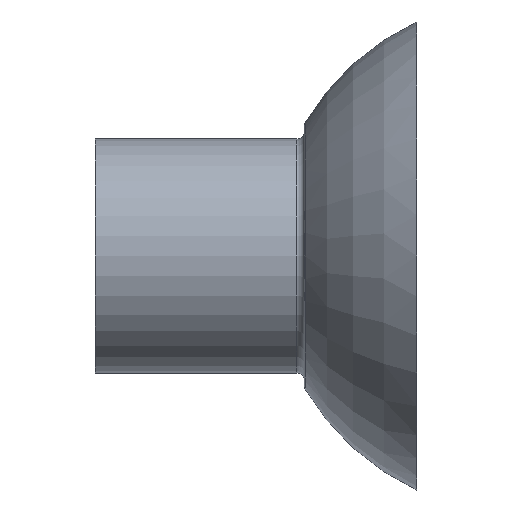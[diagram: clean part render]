
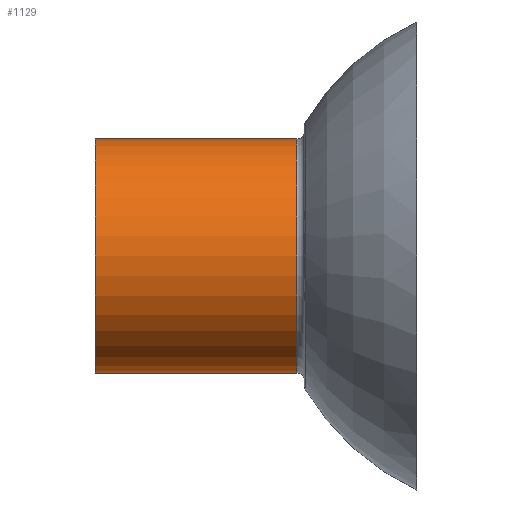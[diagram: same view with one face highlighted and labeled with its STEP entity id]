
A CAD part, left-side view. The second image highlights one B-rep face of the part: STEP entity #1129.
In plain terms, the highlighted cylindrical face has radius 8 mm (diameter 16 mm), a partial arc.
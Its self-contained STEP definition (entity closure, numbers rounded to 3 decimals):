
#170 = EDGE_CURVE ( 'NONE', #2993, #4271, #2170, .T. ) ;
#179 = CARTESIAN_POINT ( 'NONE',  ( 0., 53.08, -8. ) ) ;
#279 = CARTESIAN_POINT ( 'NONE',  ( 0., -13.8, 8. ) ) ;
#334 = CARTESIAN_POINT ( 'NONE',  ( 0., 0., 0. ) ) ;
#380 = CARTESIAN_POINT ( 'NONE',  ( 0., 0., -8. ) ) ;
#391 = EDGE_CURVE ( 'NONE', #799, #2993, #1828, .T. ) ;
#479 = CIRCLE ( 'NONE', #1535, 8. ) ;
#542 = DIRECTION ( 'NONE',  ( 0., 1., 0. ) ) ;
#555 = DIRECTION ( 'NONE',  ( 0., 1., 0. ) ) ;
#781 = CARTESIAN_POINT ( 'NONE',  ( 0., -13.8, 0. ) ) ;
#799 = VERTEX_POINT ( 'NONE', #2531 ) ;
#915 = ORIENTED_EDGE ( 'NONE', *, *, #2499, .F. ) ;
#1129 = ADVANCED_FACE ( 'NONE', ( #4142 ), #3163, .T. ) ;
#1356 = VERTEX_POINT ( 'NONE', #380 ) ;
#1522 = VECTOR ( 'NONE', #542, 1000. ) ;
#1535 = AXIS2_PLACEMENT_3D ( 'NONE', #334, #2141, #2126 ) ;
#1665 = VECTOR ( 'NONE', #555, 1000. ) ;
#1689 = CARTESIAN_POINT ( 'NONE',  ( 0., 53.08, 0. ) ) ;
#1828 = CIRCLE ( 'NONE', #3455, 8. ) ;
#2126 = DIRECTION ( 'NONE',  ( 0., 0., 1. ) ) ;
#2141 = DIRECTION ( 'NONE',  ( 0., 1., 0. ) ) ;
#2170 = LINE ( 'NONE', #3527, #1522 ) ;
#2499 = EDGE_CURVE ( 'NONE', #799, #1356, #3775, .T. ) ;
#2527 = AXIS2_PLACEMENT_3D ( 'NONE', #1689, #3554, #4652 ) ;
#2531 = CARTESIAN_POINT ( 'NONE',  ( 0., -13.8, -8. ) ) ;
#2671 = ORIENTED_EDGE ( 'NONE', *, *, #170, .T. ) ;
#2993 = VERTEX_POINT ( 'NONE', #279 ) ;
#3102 = EDGE_LOOP ( 'NONE', ( #915, #3634, #2671, #3417 ) ) ;
#3163 = CYLINDRICAL_SURFACE ( 'NONE', #2527, 8. ) ;
#3417 = ORIENTED_EDGE ( 'NONE', *, *, #4097, .F. ) ;
#3455 = AXIS2_PLACEMENT_3D ( 'NONE', #781, #3712, #3730 ) ;
#3527 = CARTESIAN_POINT ( 'NONE',  ( 0., 53.08, 8. ) ) ;
#3554 = DIRECTION ( 'NONE',  ( 0., 1., 0. ) ) ;
#3634 = ORIENTED_EDGE ( 'NONE', *, *, #391, .T. ) ;
#3712 = DIRECTION ( 'NONE',  ( 0., 1., 0. ) ) ;
#3730 = DIRECTION ( 'NONE',  ( 0., 0., 1. ) ) ;
#3775 = LINE ( 'NONE', #179, #1665 ) ;
#4001 = CARTESIAN_POINT ( 'NONE',  ( 0., 0., 8. ) ) ;
#4097 = EDGE_CURVE ( 'NONE', #1356, #4271, #479, .T. ) ;
#4142 = FACE_OUTER_BOUND ( 'NONE', #3102, .T. ) ;
#4271 = VERTEX_POINT ( 'NONE', #4001 ) ;
#4652 = DIRECTION ( 'NONE',  ( 0., 0., 1. ) ) ;
